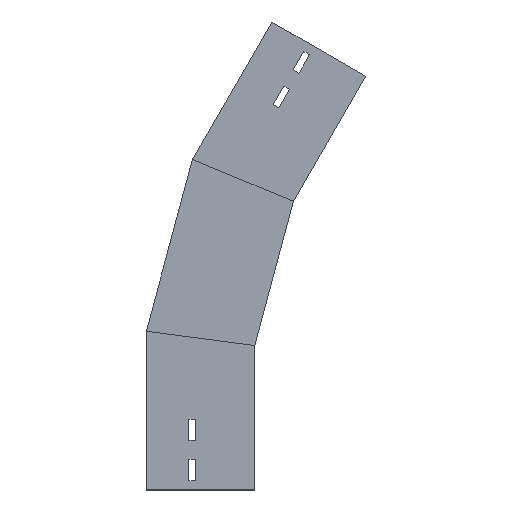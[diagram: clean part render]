
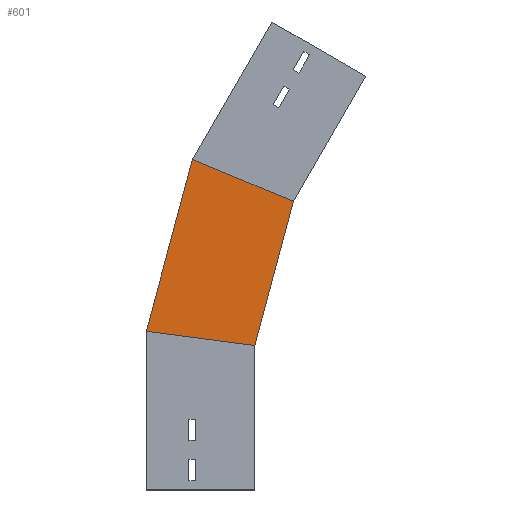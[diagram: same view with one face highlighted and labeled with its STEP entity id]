
A CAD part, left-side view. The second image highlights one B-rep face of the part: STEP entity #601.
In plain terms, the highlighted planar face has unit normal (-1, 0, 0) as drawn and (1, 0, 0) by its records, which use the part's own axes.
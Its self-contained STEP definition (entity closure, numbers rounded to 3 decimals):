
#35 = DIRECTION ( 'NONE',  ( 0., -0.259, 0.966 ) ) ;
#52 = LINE ( 'NONE', #1198, #531 ) ;
#65 = VECTOR ( 'NONE', #1305, 1000. ) ;
#79 = DIRECTION ( 'NONE',  ( 1., 0., 0. ) ) ;
#157 = ORIENTED_EDGE ( 'NONE', *, *, #960, .F. ) ;
#254 = CARTESIAN_POINT ( 'NONE',  ( 0., 4.243, 134.167 ) ) ;
#303 = EDGE_LOOP ( 'NONE', ( #1161, #998, #892, #157 ) ) ;
#310 = VERTEX_POINT ( 'NONE', #604 ) ;
#374 = VECTOR ( 'NONE', #35, 1000. ) ;
#436 = VERTEX_POINT ( 'NONE', #1020 ) ;
#463 = LINE ( 'NONE', #830, #65 ) ;
#528 = VECTOR ( 'NONE', #952, 1000. ) ;
#531 = VECTOR ( 'NONE', #980, 1000. ) ;
#557 = CARTESIAN_POINT ( 'NONE',  ( 0., 112.5, 164.811 ) ) ;
#592 = CARTESIAN_POINT ( 'NONE',  ( 0., 112.909, 163.284 ) ) ;
#601 = ADVANCED_FACE ( 'NONE', ( #1352 ), #1078, .T. ) ;
#604 = CARTESIAN_POINT ( 'NONE',  ( 0., 64.716, 343.142 ) ) ;
#722 = EDGE_CURVE ( 'NONE', #436, #757, #1301, .T. ) ;
#757 = VERTEX_POINT ( 'NONE', #762 ) ;
#762 = CARTESIAN_POINT ( 'NONE',  ( 0., -40.117, 299.719 ) ) ;
#811 = LINE ( 'NONE', #592, #374 ) ;
#830 = CARTESIAN_POINT ( 'NONE',  ( 0., -19.411, 147.444 ) ) ;
#862 = DIRECTION ( 'NONE',  ( 0., 0., -1. ) ) ;
#869 = EDGE_CURVE ( 'NONE', #1425, #310, #811, .T. ) ;
#892 = ORIENTED_EDGE ( 'NONE', *, *, #722, .F. ) ;
#952 = DIRECTION ( 'NONE',  ( 0., -0.259, 0.966 ) ) ;
#960 = EDGE_CURVE ( 'NONE', #1425, #436, #463, .T. ) ;
#980 = DIRECTION ( 'NONE',  ( 0., -0.924, -0.383 ) ) ;
#998 = ORIENTED_EDGE ( 'NONE', *, *, #1216, .T. ) ;
#1020 = CARTESIAN_POINT ( 'NONE',  ( 0., 0., 150. ) ) ;
#1078 = PLANE ( 'NONE',  #1237 ) ;
#1161 = ORIENTED_EDGE ( 'NONE', *, *, #869, .T. ) ;
#1198 = CARTESIAN_POINT ( 'NONE',  ( 0., -60.785, 291.157 ) ) ;
#1216 = EDGE_CURVE ( 'NONE', #310, #757, #52, .T. ) ;
#1237 = AXIS2_PLACEMENT_3D ( 'NONE', #1477, #79, #862 ) ;
#1301 = LINE ( 'NONE', #254, #528 ) ;
#1305 = DIRECTION ( 'NONE',  ( 0., -0.991, -0.131 ) ) ;
#1352 = FACE_OUTER_BOUND ( 'NONE', #303, .T. ) ;
#1425 = VERTEX_POINT ( 'NONE', #557 ) ;
#1477 = CARTESIAN_POINT ( 'NONE',  ( 0., 4.243, 134.167 ) ) ;
